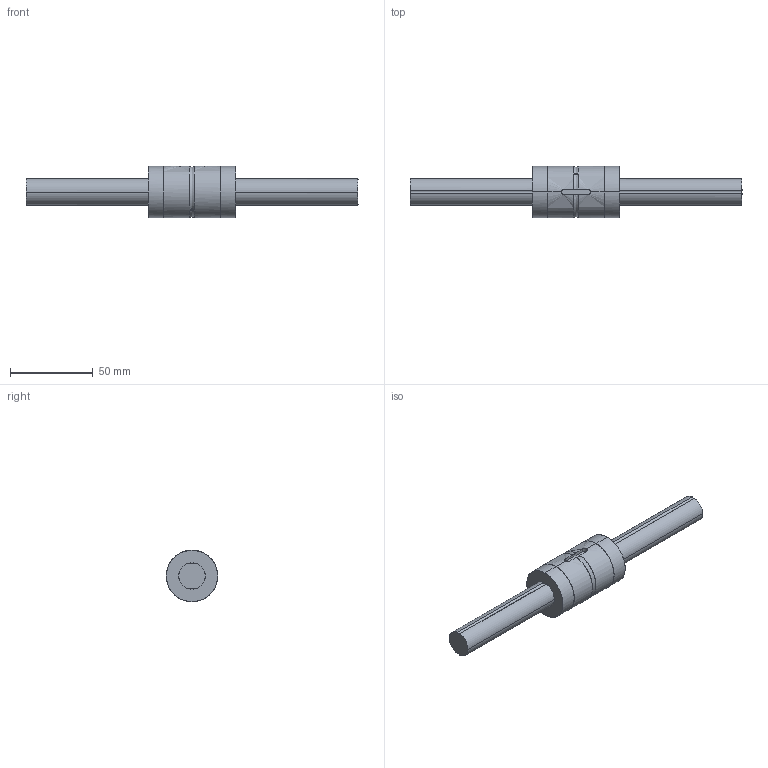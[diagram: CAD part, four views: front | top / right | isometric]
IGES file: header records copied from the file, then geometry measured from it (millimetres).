
Global section: file name: No Iges File Name specified; native system: AutoDesk Inventor R11.0; preprocessor: AutoDesk Inventor Iges Exporter R11.0; author: No Author specified; organization: No Organization specified; date: 20150223.132736; units: millimetre
Bounding box: 200 x 31 x 31 mm (x, y, z)
Surface area: 19674.5 mm2 (no closed solid volume)
Topology: 0 solids, 0 shells, 36 faces, 280 edges, 280 vertices
Faces by surface type: bspline 36
